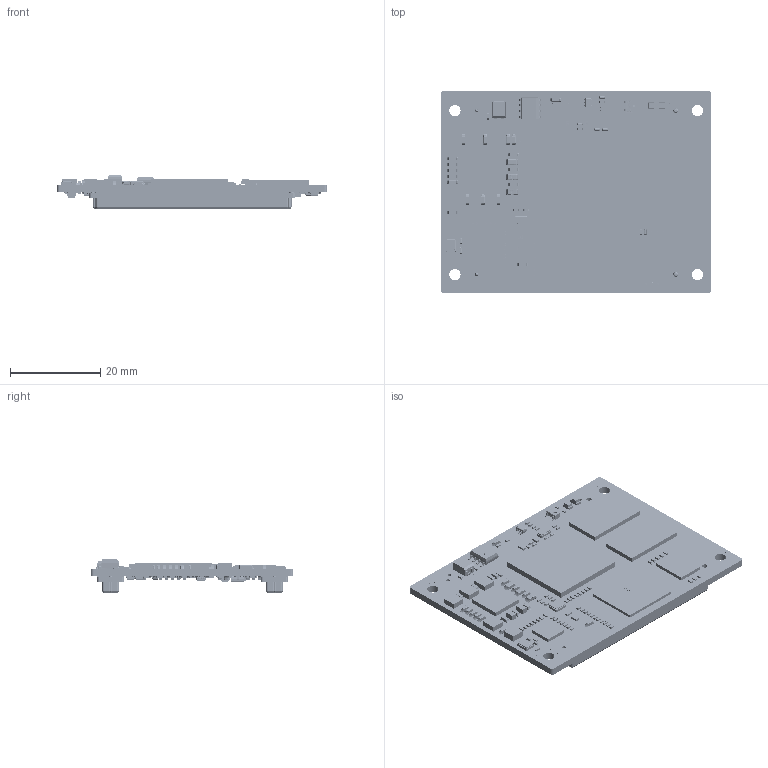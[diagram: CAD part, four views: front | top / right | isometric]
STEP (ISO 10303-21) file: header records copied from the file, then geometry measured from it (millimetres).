
FILE_DESCRIPTION((''),'2;1');
FILE_NAME('MYC-C437X_V13_20230113_ASM','2023-10-09T09:08:33',('89233'),(''),'CREO PARAMETRIC BY PTC INC, 2023073','CREO PARAMETRIC BY PTC INC, 2023073','');
FILE_SCHEMA(('AUTOMOTIVE_DESIGN { 1 0 10303 214 1 1 1 1 }'));
Products named in the file (264): BOARD; 3D16-2; NONE-58140_6; NONE-58141_6; NONE-58142_6; NONE-58143_6; SOT-23-3_ASM_6_ASM; SOT-23_ASM; _1-45825_4; WRAP1-45826_4; USER_LIBRARY-0805_CAP-1-SOLID_1; PART8_ASSEM4-1-SOLID2_1_4; C0805-38575_ASM_4_ASM; C0805_ASM; NONE-58131_6_2; PART6_ASSEM3-1-SOLID2_8_2; USER_LIBRARY-0603_CAP-1-SOLID1_; CUT-EXTRUDE1-58134_6_2; 0603_1; C0603-46898_ASM_6_ASM_2_ASM; C0603_ASM; NONE-20964_2_4; NONE-20965_2_4; NONE-20966_2_4; NONE-20967_2_4; NONE-20968_2_4; NONE-20969_2_4; NONE-20970_2_4; NONE-20971_2_4; NONE-20972_2_4; NONE-20973_2_4; NONE-20974_2_4; NONE-20975_2_4; NONE-20976_2_4; NONE-20977_2_4; NONE-20978_2_4; NONE-20979_2_4; NONE-20980_2_4; NONE-20981_2_4; NONE-20982_2_4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
Assembly tree (655 placements, depth 10):
  MYC-C437X_V13_20230113_ASM
    MYC-C437X_V13_20230113_1_ASM
      BOARD
      COMPONENTS_ASM
        3D16-2
        SOT-23_ASM  x3
          SOT-23-3_ASM_6_ASM
            NONE-58140_6
            NONE-58141_6
            NONE-58142_6
            NONE-58143_6
        C0805_ASM  x5
          C0805-38575_ASM_4_ASM
            _1-45825_4
            WRAP1-45826_4
            USER_LIBRARY-0805_CAP-1-SOLID_1
            PART8_ASSEM4-1-SOLID2_1_4
        C0603_ASM  x41
          C0603-46898_ASM_6_ASM_2_ASM
            NONE-58131_6_2
            PART6_ASSEM3-1-SOLID2_8_2
            USER_LIBRARY-0603_CAP-1-SOLID1_
            CUT-EXTRUDE1-58134_6_2
            0603_1
        BGA153_P14_P5_11P5X13_ASM
          BGA153_C010S_ASM_2_ASM_4_ASM
            BGA153_AF0_ASM_2_ASM_4_ASM
              NONE-20964_2_4
              NONE-20965_2_4
              NONE-20966_2_4
              NONE-20967_2_4
              NONE-20968_2_4
              NONE-20969_2_4
              NONE-20970_2_4
              NONE-20971_2_4
              NONE-20972_2_4
              NONE-20973_2_4
              NONE-20974_2_4
              NONE-20975_2_4
              NONE-20976_2_4
              NONE-20977_2_4
              NONE-20978_2_4
              NONE-20979_2_4
              NONE-20980_2_4
              NONE-20981_2_4
              NONE-20982_2_4
              NONE-20983_2_4
              NONE-20984_2_4
              NONE-20985_2_4
              NONE-20986_2_4
              NONE-20987_2_4
              NONE-20988_2_4
              NONE-20989_2_4
              NONE-20990_2_4
              NONE-20991_2_4
              NONE-20992_2_4
              NONE-20993_2_4
              NONE-20994_2_4
              NONE-20995_2_4
              NONE-20996_2_4
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Bounding box: 60 x 45 x 7.44 mm (x, y, z)
Volume: 6535.1 mm3; surface area: 12143.9 mm2
Topology: 1193 solids, 1554 shells, 25478 faces, 85966 edges, 65462 vertices
Faces by surface type: plane 16882, cylinder 4683, sphere 1807, bspline 1023, torus 748, extrusion 307, cone 28
Entity records: 319918 total; most frequent: CARTESIAN_POINT 57616, DIRECTION 40429, ORIENTED_EDGE 21119, PRESENTATION_STYLE_ASSIGNMENT 18370, STYLED_ITEM 17736, CURVE_STYLE 17086, AXIS2_PLACEMENT_3D 14326, EDGE_CURVE 11782
